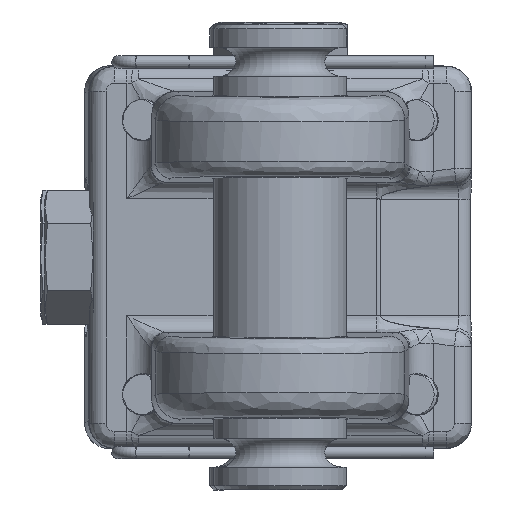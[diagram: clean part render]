
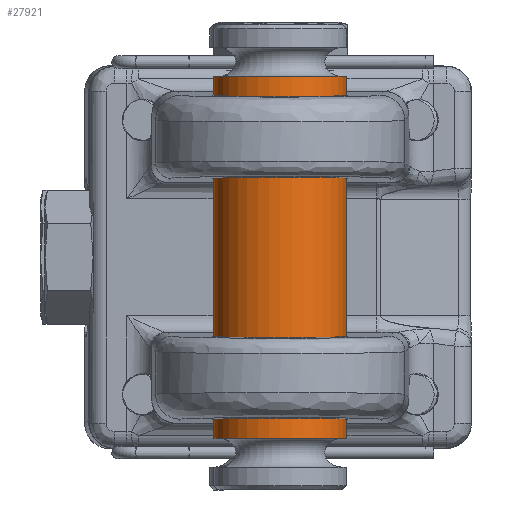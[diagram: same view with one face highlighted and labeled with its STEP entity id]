
A CAD part, left-side view. The second image highlights one B-rep face of the part: STEP entity #27921.
In plain terms, the highlighted cylindrical face has radius 12.7 mm (diameter 25.4 mm), a full revolution.
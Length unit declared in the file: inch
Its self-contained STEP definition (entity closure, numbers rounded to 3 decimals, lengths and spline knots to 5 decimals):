
#27817=CARTESIAN_POINT('',(-1.35975,0.5,0.));
#27818=VERTEX_POINT('',#27817);
#27819=CARTESIAN_POINT('',(-1.35975,0.0,0.0));
#27820=DIRECTION('',(1.0,0.0,0.0));
#27821=DIRECTION('',(0.0,-1.0,0.0));
#27822=AXIS2_PLACEMENT_3D('',#27819,#27820,#27821);
#27823=CIRCLE('',#27822,0.5);
#27824=EDGE_CURVE('',#27818,#27818,#27823,.T.);
#27849=CARTESIAN_POINT('',(1.35975,0.5,0.));
#27850=VERTEX_POINT('',#27849);
#27851=CARTESIAN_POINT('',(1.35975,0.0,0.0));
#27852=DIRECTION('',(-1.0,0.0,0.0));
#27853=DIRECTION('',(0.0,-1.0,0.0));
#27854=AXIS2_PLACEMENT_3D('',#27851,#27852,#27853);
#27855=CIRCLE('',#27854,0.5);
#27856=EDGE_CURVE('',#27850,#27850,#27855,.T.);
#27910=CARTESIAN_POINT('',(0.0,0.0,0.0));
#27911=DIRECTION('',(1.0,0.0,0.0));
#27912=DIRECTION('',(0.0,-1.0,0.0));
#27913=AXIS2_PLACEMENT_3D('',#27910,#27911,#27912);
#27914=CYLINDRICAL_SURFACE('',#27913,0.5);
#27915=ORIENTED_EDGE('',*,*,#27824,.T.);
#27916=EDGE_LOOP('',(#27915));
#27917=FACE_OUTER_BOUND('',#27916,.T.);
#27918=ORIENTED_EDGE('',*,*,#27856,.T.);
#27919=EDGE_LOOP('',(#27918));
#27920=FACE_BOUND('',#27919,.T.);
#27921=ADVANCED_FACE('',(#27917,#27920),#27914,.T.);
